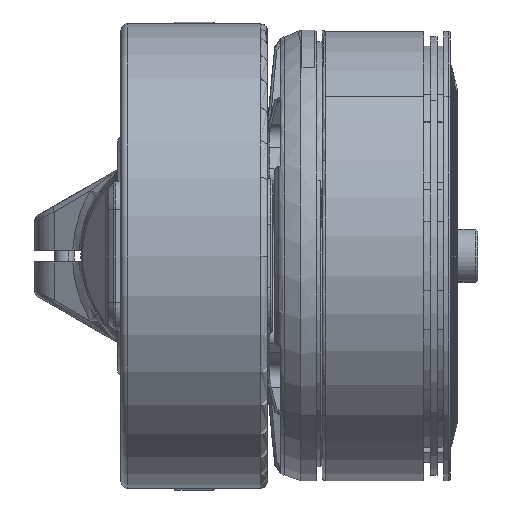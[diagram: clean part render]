
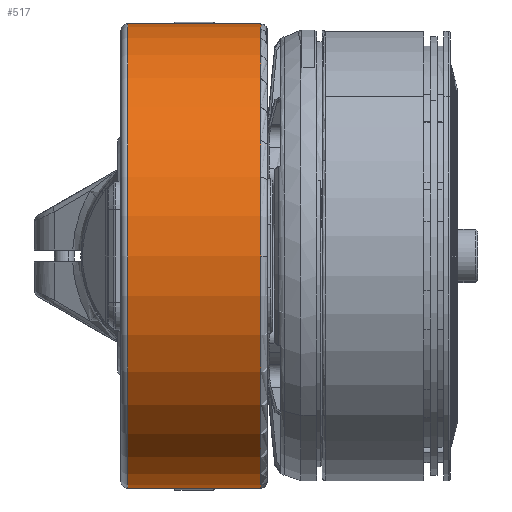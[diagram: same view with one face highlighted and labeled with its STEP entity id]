
A CAD part, left-side view. The second image highlights one B-rep face of the part: STEP entity #517.
In plain terms, the highlighted cylindrical face has radius 34.85 mm (diameter 69.7 mm), a partial arc.
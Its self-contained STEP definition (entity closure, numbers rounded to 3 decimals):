
#517 = ADVANCED_FACE ( 'NONE', ( #25492 ), #52468, .T. ) ;
#2854 = DIRECTION ( 'NONE',  ( 0., -1., 0. ) ) ;
#3940 = CIRCLE ( 'NONE', #63217, 34.85 ) ;
#4020 = ORIENTED_EDGE ( 'NONE', *, *, #19221, .T. ) ;
#5128 = CARTESIAN_POINT ( 'NONE',  ( -51.034, 0.831, -0.807 ) ) ;
#5899 = CIRCLE ( 'NONE', #54009, 34.85 ) ;
#7855 = AXIS2_PLACEMENT_3D ( 'NONE', #65142, #32936, #20791 ) ;
#8558 = EDGE_CURVE ( 'NONE', #64763, #14931, #20772, .T. ) ;
#8853 = VERTEX_POINT ( 'NONE', #9456 ) ;
#9456 = CARTESIAN_POINT ( 'NONE',  ( -51.034, -21.669, -35.657 ) ) ;
#10003 = EDGE_CURVE ( 'NONE', #54619, #8853, #40996, .T. ) ;
#12401 = EDGE_LOOP ( 'NONE', ( #38544, #4020, #55907, #33914, #36021 ) ) ;
#14709 = DIRECTION ( 'NONE',  ( 0., -1., 0. ) ) ;
#14931 = VERTEX_POINT ( 'NONE', #61046 ) ;
#16322 = DIRECTION ( 'NONE',  ( 0., 1., 0. ) ) ;
#16355 = VECTOR ( 'NONE', #22066, 1000. ) ;
#19221 = EDGE_CURVE ( 'NONE', #64763, #54619, #5899, .T. ) ;
#20772 = LINE ( 'NONE', #43098, #16355 ) ;
#20791 = DIRECTION ( 'NONE',  ( -1., 0., 0. ) ) ;
#22066 = DIRECTION ( 'NONE',  ( 0., -1., 0. ) ) ;
#23271 = VECTOR ( 'NONE', #14709, 1000. ) ;
#25492 = FACE_OUTER_BOUND ( 'NONE', #12401, .T. ) ;
#26521 = DIRECTION ( 'NONE',  ( 0., -1., 0. ) ) ;
#29466 = CARTESIAN_POINT ( 'NONE',  ( -51.034, -1.669, -0.807 ) ) ;
#30163 = CARTESIAN_POINT ( 'NONE',  ( -51.034, 0.831, -35.657 ) ) ;
#32936 = DIRECTION ( 'NONE',  ( 0., 1., 0. ) ) ;
#33914 = ORIENTED_EDGE ( 'NONE', *, *, #58427, .T. ) ;
#36021 = ORIENTED_EDGE ( 'NONE', *, *, #64555, .T. ) ;
#37261 = VERTEX_POINT ( 'NONE', #53462 ) ;
#37673 = DIRECTION ( 'NONE',  ( -1., 0., 0. ) ) ;
#38544 = ORIENTED_EDGE ( 'NONE', *, *, #8558, .F. ) ;
#40435 = CARTESIAN_POINT ( 'NONE',  ( -51.034, -1.669, -35.657 ) ) ;
#40996 = LINE ( 'NONE', #30163, #23271 ) ;
#42514 = AXIS2_PLACEMENT_3D ( 'NONE', #5128, #26521, #42611 ) ;
#42611 = DIRECTION ( 'NONE',  ( 0., 0., -1. ) ) ;
#43098 = CARTESIAN_POINT ( 'NONE',  ( -51.034, 0.831, 34.043 ) ) ;
#45047 = CARTESIAN_POINT ( 'NONE',  ( -51.034, -1.669, 34.043 ) ) ;
#49261 = CIRCLE ( 'NONE', #7855, 34.85 ) ;
#52468 = CYLINDRICAL_SURFACE ( 'NONE', #42514, 34.85 ) ;
#53462 = CARTESIAN_POINT ( 'NONE',  ( -85.884, -21.669, -0.807 ) ) ;
#54009 = AXIS2_PLACEMENT_3D ( 'NONE', #29466, #2854, #60288 ) ;
#54619 = VERTEX_POINT ( 'NONE', #40435 ) ;
#55907 = ORIENTED_EDGE ( 'NONE', *, *, #10003, .T. ) ;
#58427 = EDGE_CURVE ( 'NONE', #8853, #37261, #49261, .T. ) ;
#60288 = DIRECTION ( 'NONE',  ( 0., 0., -1. ) ) ;
#61046 = CARTESIAN_POINT ( 'NONE',  ( -51.034, -21.669, 34.043 ) ) ;
#63217 = AXIS2_PLACEMENT_3D ( 'NONE', #63963, #16322, #37673 ) ;
#63963 = CARTESIAN_POINT ( 'NONE',  ( -51.034, -21.669, -0.807 ) ) ;
#64555 = EDGE_CURVE ( 'NONE', #37261, #14931, #3940, .T. ) ;
#64763 = VERTEX_POINT ( 'NONE', #45047 ) ;
#65142 = CARTESIAN_POINT ( 'NONE',  ( -51.034, -21.669, -0.807 ) ) ;
